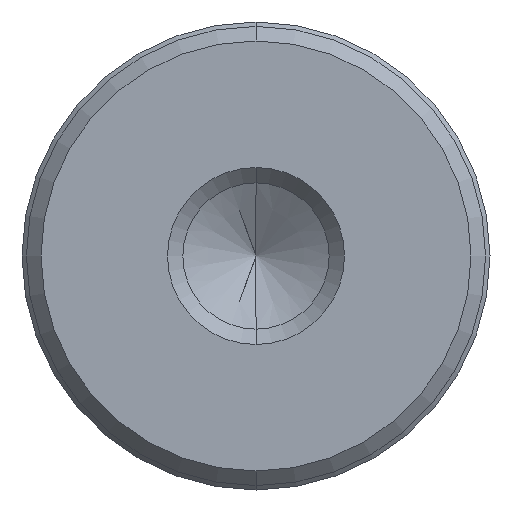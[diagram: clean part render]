
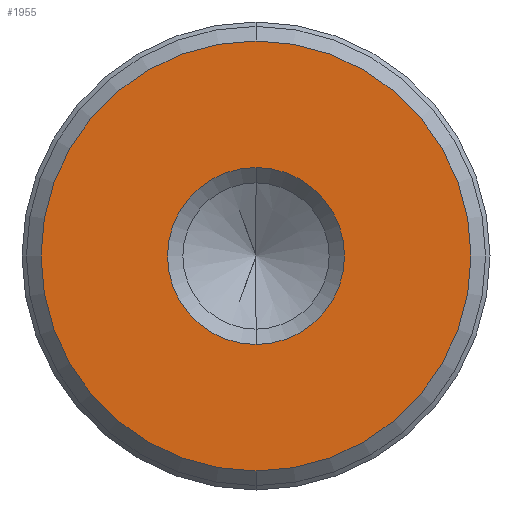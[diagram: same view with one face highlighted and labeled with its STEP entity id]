
A CAD part, front view. The second image highlights one B-rep face of the part: STEP entity #1955.
In plain terms, the highlighted planar face has unit normal (0, -1, 0).
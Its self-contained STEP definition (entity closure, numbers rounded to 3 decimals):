
#37 = FACE_OUTER_BOUND ( 'NONE', #5470, .T. ) ;
#54 = DIRECTION ( 'NONE',  ( 0., -1., 0. ) ) ;
#136 = CIRCLE ( 'NONE', #5869, 7.35 ) ;
#1054 = EDGE_CURVE ( 'NONE', #1463, #3684, #6140, .T. ) ;
#1121 = CARTESIAN_POINT ( 'NONE',  ( 0., -14., -3.025 ) ) ;
#1174 = ORIENTED_EDGE ( 'NONE', *, *, #7571, .F. ) ;
#1273 = CARTESIAN_POINT ( 'NONE',  ( 0., -14., 0. ) ) ;
#1463 = VERTEX_POINT ( 'NONE', #1121 ) ;
#1689 = DIRECTION ( 'NONE',  ( 0., -1., 0. ) ) ;
#1767 = EDGE_CURVE ( 'NONE', #3387, #3253, #136, .T. ) ;
#1784 = DIRECTION ( 'NONE',  ( 0., 0., 1. ) ) ;
#1891 = DIRECTION ( 'NONE',  ( 0., 0., 1. ) ) ;
#1896 = EDGE_LOOP ( 'NONE', ( #5928, #4063 ) ) ;
#1955 = ADVANCED_FACE ( 'NONE', ( #2197, #37 ), #4738, .F. ) ;
#2165 = CARTESIAN_POINT ( 'NONE',  ( 0., -14., 7.35 ) ) ;
#2197 = FACE_BOUND ( 'NONE', #1896, .T. ) ;
#2269 = CIRCLE ( 'NONE', #3658, 3.025 ) ;
#3253 = VERTEX_POINT ( 'NONE', #2165 ) ;
#3347 = DIRECTION ( 'NONE',  ( 0., 1., 0. ) ) ;
#3387 = VERTEX_POINT ( 'NONE', #4588 ) ;
#3614 = CARTESIAN_POINT ( 'NONE',  ( 0., -14., 0. ) ) ;
#3658 = AXIS2_PLACEMENT_3D ( 'NONE', #5259, #1689, #5850 ) ;
#3684 = VERTEX_POINT ( 'NONE', #7472 ) ;
#3693 = AXIS2_PLACEMENT_3D ( 'NONE', #1273, #5444, #1891 ) ;
#4063 = ORIENTED_EDGE ( 'NONE', *, *, #4916, .F. ) ;
#4198 = DIRECTION ( 'NONE',  ( 0., 0., -1. ) ) ;
#4219 = CIRCLE ( 'NONE', #3693, 7.35 ) ;
#4588 = CARTESIAN_POINT ( 'NONE',  ( 0., -14., -7.35 ) ) ;
#4738 = PLANE ( 'NONE',  #7315 ) ;
#4744 = ORIENTED_EDGE ( 'NONE', *, *, #1767, .F. ) ;
#4916 = EDGE_CURVE ( 'NONE', #3684, #1463, #2269, .T. ) ;
#5259 = CARTESIAN_POINT ( 'NONE',  ( 0., -14., 0. ) ) ;
#5344 = DIRECTION ( 'NONE',  ( 0., 1., 0. ) ) ;
#5444 = DIRECTION ( 'NONE',  ( 0., 1., 0. ) ) ;
#5470 = EDGE_LOOP ( 'NONE', ( #1174, #4744 ) ) ;
#5777 = AXIS2_PLACEMENT_3D ( 'NONE', #3614, #54, #4198 ) ;
#5850 = DIRECTION ( 'NONE',  ( 0., 0., -1. ) ) ;
#5869 = AXIS2_PLACEMENT_3D ( 'NONE', #6910, #3347, #7512 ) ;
#5928 = ORIENTED_EDGE ( 'NONE', *, *, #1054, .F. ) ;
#6140 = CIRCLE ( 'NONE', #5777, 3.025 ) ;
#6910 = CARTESIAN_POINT ( 'NONE',  ( 0., -14., 0. ) ) ;
#7104 = CARTESIAN_POINT ( 'NONE',  ( 0., -14., 0. ) ) ;
#7315 = AXIS2_PLACEMENT_3D ( 'NONE', #7104, #5344, #1784 ) ;
#7472 = CARTESIAN_POINT ( 'NONE',  ( 0., -14., 3.025 ) ) ;
#7512 = DIRECTION ( 'NONE',  ( 0., 0., 1. ) ) ;
#7571 = EDGE_CURVE ( 'NONE', #3253, #3387, #4219, .T. ) ;
